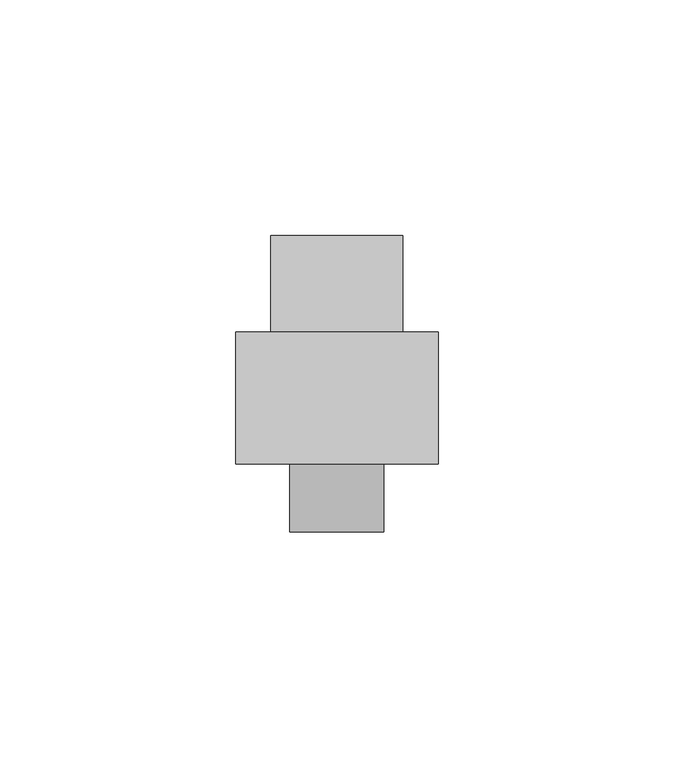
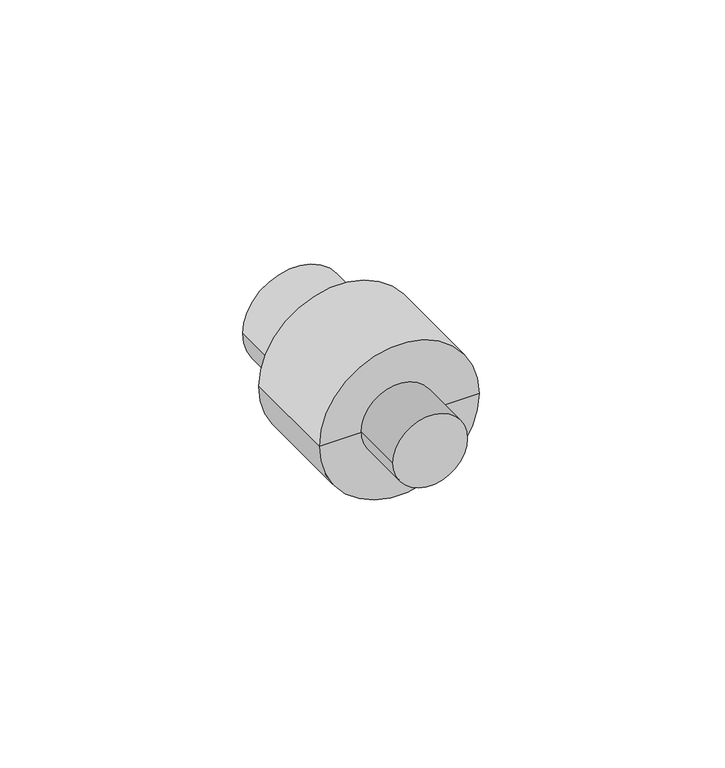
"""IFC4 building model written with IfcOpenShell, lengths in millimetres: pipe fitting geometry, NIRON RED termofusion roscado enlace rosca macho : Estándar."""

from ifc_helpers import new_model, si_unit, point, frame, origin, origin_2d, place, context, project, spatial, circle_curve, trimmed, segment, composite_curve, outline, extrude, source, transform, mapped, element, save
from ifc_brep_helpers import plane_surface, cylinder_surface, advanced_brep


def pipe_fitting_dfc5898f(model_context):
    return source(origin(), model_context, "Body", "SolidModel", [
        extrude(outline(composite_curve([segment(trimmed(circle_curve(origin_2d(), 10.0), [point((0.0, -10.0))], [point((0.0, 10.0))], False, "CARTESIAN"), True, "CONTINUOUS"), segment(trimmed(circle_curve(origin_2d(), 10.0), [point((0.0, 10.0))], [point((0.0, -10.0))], False, "CARTESIAN"), True, "CONTINUOUS")], self_intersect=False)), frame((0.0, -5.0, 0.0), z_axis=(0.0, 1.0, 0.0), x_axis=(0.0, 0.0, 1.0)), (0.0, 0.0, 1.0), 30.0),
        advanced_brep(
        [(14.0, 58.0, 0.0), (-14.0, 58.0, 0.0), (0.0, 58.0, 0.0), (21.5, 9.5, 0.0), (-21.5, 9.5, 0.0), (-21.5, 37.5, 0.0), (21.5, 37.5, 0.0), (0.0, 9.5, 0.0), (14.0, 37.5, 0.0), (-14.0, 37.5, 0.0)],
        [
            (0, 1, circle_curve(frame((0.0, 58.0, 0.0), z_axis=(0.0, 1.0, 0.0), x_axis=(-1.0, 0.0, 0.0)), 14.0)),
            (1, 2),
            (2, 0),
            (1, 0, circle_curve(frame((0.0, 58.0, 0.0), z_axis=(0.0, 1.0, 0.0), x_axis=(-1.0, 0.0, 0.0)), 14.0)),
            (3, 4, circle_curve(frame((0.0, 9.5, 0.0), z_axis=(0.0, 1.0, 0.0), x_axis=(-1.0, 0.0, 0.0)), 21.5)),
            (4, 5),
            (5, 6, circle_curve(frame((0.0, 37.5, 0.0), z_axis=(0.0, -1.0, 0.0), x_axis=(-1.0, 0.0, 0.0)), 21.5)),
            (6, 3),
            (4, 3, circle_curve(frame((0.0, 9.5, 0.0), z_axis=(0.0, 1.0, 0.0), x_axis=(-1.0, 0.0, 0.0)), 21.5)),
            (6, 5, circle_curve(frame((0.0, 37.5, 0.0), z_axis=(0.0, -1.0, 0.0), x_axis=(-1.0, 0.0, 0.0)), 21.5)),
            (7, 4),
            (3, 7),
            (8, 9, circle_curve(frame((0.0, 37.5, 0.0), z_axis=(0.0, 1.0, 0.0), x_axis=(-1.0, 0.0, 0.0)), 14.0)),
            (9, 1),
            (0, 8),
            (9, 8, circle_curve(frame((0.0, 37.5, 0.0), z_axis=(0.0, 1.0, 0.0), x_axis=(-1.0, 0.0, 0.0)), 14.0)),
            (5, 9),
            (8, 6),
        ],
        [
            plane_surface(frame((0.0, 58.0, 0.0), z_axis=(0.0, 1.0, 0.0), x_axis=(-1.0, 0.0, 0.0))),
            cylinder_surface(frame((0.0, 68.0, 0.0), z_axis=(0.0, -1.0, 0.0), x_axis=(-1.0, 0.0, 0.0)), 21.5),
            plane_surface(frame((0.0, 9.5, 0.0), z_axis=(0.0, -1.0, 0.0), x_axis=(-1.0, 0.0, 0.0))),
            cylinder_surface(frame((0.0, 68.0, 0.0), z_axis=(0.0, -1.0, 0.0), x_axis=(-1.0, 0.0, 0.0)), 14.0),
            plane_surface(frame((0.0, 37.5, 0.0), z_axis=(0.0, 1.0, 0.0), x_axis=(-1.0, 0.0, 0.0))),
        ],
        [
            (0, [[1, 2, 3]]),
            (0, [[4, -3, -2]]),
            (1, [[5, 6, 7, 8]]),
            (1, [[9, -8, 10, -6]]),
            (2, [[11, -5, 12]]),
            (2, [[-12, -9, -11]]),
            (3, [[13, 14, -1, 15]]),
            (3, [[16, -15, -4, -14]]),
            (4, [[-7, 17, -13, 18]]),
            (4, [[-10, -18, -16, -17]]),
        ],
    ),
    ])


if __name__ == "__main__":
    model = new_model("IFC4")
    model_context = context("Model", 3, world=origin())
    ifc_project = project(units=[si_unit("LENGTHUNIT", "METRE", prefix="MILLI")], contexts=[model_context])
    site = spatial("IfcSite", under=ifc_project)
    building = spatial("IfcBuilding", under=site)
    placement = place(None, origin())
    pipe_fitting_shape = pipe_fitting_dfc5898f(model_context)
    element("IfcPipeFitting", 1, ObjectType="NIRON RED termofusion roscado enlace rosca macho : Estándar", at=placement, inside=building, context=model_context, shape_type="MappedRepresentation", body=[
        mapped(pipe_fitting_shape, transform((0.0, 0.0, 0.0), x_axis=(1.0, 0.0, 0.0), y_axis=(0.0, 1.0, 0.0), z_axis=(0.0, 0.0, 1.0))),
    ])
    save(model, "model.ifc")
